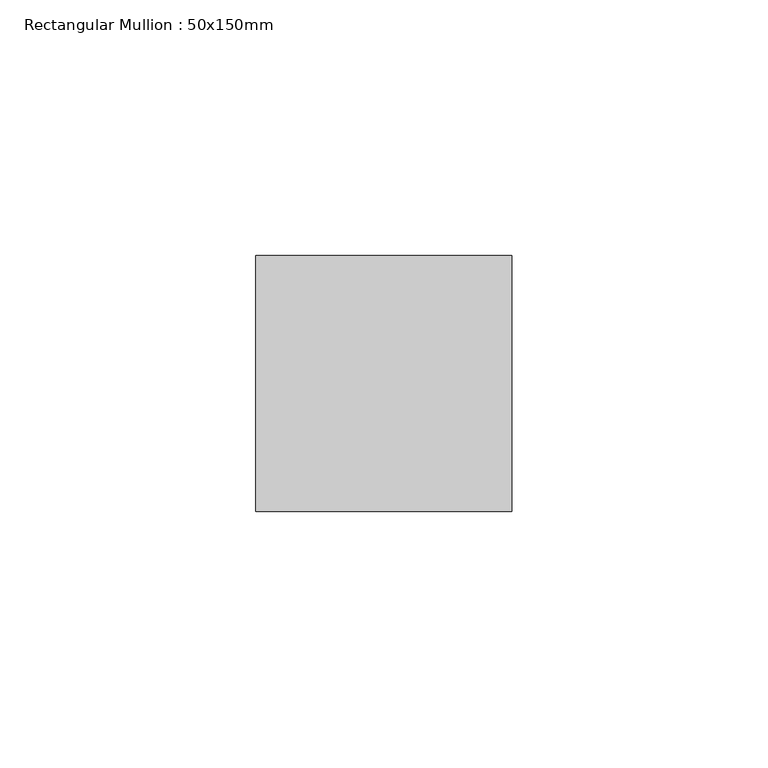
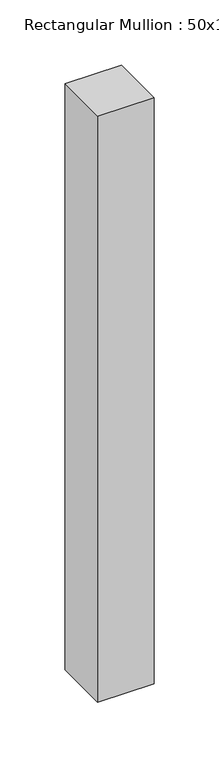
"""IFC4 building model written with IfcOpenShell, lengths in millimetres: member geometry, Rectangular Mullion : 50x150mm."""

import ifcopenshell
import ifcopenshell.guid

model = None  # the IFC model being written
_history = None  # IfcOwnerHistory: only IFC2X3 demands one
_inside = {}  # id of a spatial element -> (the spatial element, [elements in it])
_under = {}  # id of a project, library or spatial element -> (it, [spatial elements below it])
_declared = {}  # id of a project -> (the project, [libraries it declares])
_typed = {}  # id of a type object -> (the type object, [elements of that type])
_made_of = {}  # id of a material, layer set ... -> (it, [elements and type objects made of it])


def new_model(schema):
    """Start an empty IFC model of exactly this schema.

    Asked for "IFC4X3", IfcOpenShell would pick the latest addendum, in which some entities
    have other attributes; the version numbers below select the first issue.
    IFC2X3 requires an IfcOwnerHistory on every rooted entity: one is made here for all.
    """
    global model, _history
    if schema == "IFC4X3":
        model = ifcopenshell.file(schema_version=(4, 3, 0, 0))
    else:
        model = ifcopenshell.file(schema=schema)
    _inside.clear()
    _under.clear()
    _declared.clear()
    _typed.clear()
    _made_of.clear()
    _history = None
    if model.schema == "IFC2X3":
        org = make("IfcOrganization", Name="unknown")
        user = make(
            "IfcPersonAndOrganization",
            ThePerson=make("IfcPerson", FamilyName="unknown"),
            TheOrganization=org,
        )
        app = make(
            "IfcApplication",
            ApplicationDeveloper=org,
            Version="unknown",
            ApplicationFullName="unknown",
            ApplicationIdentifier="unknown",
        )
        _history = make(
            "IfcOwnerHistory",
            OwningUser=user,
            OwningApplication=app,
            ChangeAction="ADDED",
            CreationDate=0,
        )
    return model


def make(cls, **values):
    """One entity of the class cls with the attributes given. An attribute that is None is left unset."""
    return model.create_entity(
        cls, **{name: value for name, value in values.items() if value is not None}
    )


def rooted(cls, **values):
    """An entity with a GlobalId (a new one), such as an element, a storey or a relation."""
    return make(cls, GlobalId=ifcopenshell.guid.new(), OwnerHistory=_history, **values)


def si_unit(unit_type, name, prefix=None):
    """IfcSIUnit, for example si_unit("LENGTHUNIT", "METRE", prefix="MILLI")."""
    return make("IfcSIUnit", UnitType=unit_type, Prefix=prefix, Name=name)


def assignment(units):
    """IfcUnitAssignment: the units of a project."""
    return None if units is None else make("IfcUnitAssignment", Units=units)


def point(xyz):
    """IfcCartesianPoint."""
    return None if xyz is None else make("IfcCartesianPoint", Coordinates=xyz)


def direction(xyz):
    """IfcDirection."""
    return None if xyz is None else make("IfcDirection", DirectionRatios=xyz)


def frame(location, z_axis=None, x_axis=None):
    """IfcAxis2Placement3D, a coordinate frame: its origin and axes. An axis left out is left unset."""
    return make(
        "IfcAxis2Placement3D",
        Location=point(location),
        Axis=direction(z_axis),
        RefDirection=direction(x_axis),
    )


def origin():
    """The frame at (0, 0, 0) with its axes left unset."""
    return frame((0.0, 0.0, 0.0))


def place(relative_to, where):
    """IfcLocalPlacement: puts the frame where relative to a parent placement (None: the world)."""
    return make(
        "IfcLocalPlacement", PlacementRelTo=relative_to, RelativePlacement=where
    )


def context(
    kind, dimensions, precision=None, world=None, true_north=None, identifier=None
):
    """IfcGeometricRepresentationContext, for example the 3D "Model" context."""
    return make(
        "IfcGeometricRepresentationContext",
        ContextIdentifier=identifier,
        ContextType=kind,
        CoordinateSpaceDimension=dimensions,
        Precision=precision,
        WorldCoordinateSystem=world,
        TrueNorth=true_north,
    )


def project(units=None, contexts=None):
    """IfcProject with its units and contexts."""
    return rooted(
        "IfcProject",
        Name="project",
        RepresentationContexts=contexts,
        UnitsInContext=assignment(units),
    )


def spatial(cls, under=None, at=None, **own):
    """A site, building, storey or space (cls), placed at a placement, below another one or the project."""
    s = rooted(cls, ObjectPlacement=at, **own)
    if under is not None:
        _under.setdefault(under.id(), (under, []))[1].append(s)
    return s


def polyline(points):
    """IfcPolyline through the points."""
    return make("IfcPolyline", Points=[point(p) for p in points])


def outline(outer, holes=None, kind="AREA"):
    """IfcArbitraryClosedProfileDef: a profile drawn as a closed curve; with holes, ...WithVoids."""
    if holes is None:
        return make("IfcArbitraryClosedProfileDef", ProfileType=kind, OuterCurve=outer)
    return make(
        "IfcArbitraryProfileDefWithVoids",
        ProfileType=kind,
        OuterCurve=outer,
        InnerCurves=holes,
    )


def extrude(swept, where, along, depth):
    """IfcExtrudedAreaSolid: the profile swept, set in the frame where, extruded along a direction by depth."""
    return make(
        "IfcExtrudedAreaSolid",
        SweptArea=swept,
        Position=where,
        ExtrudedDirection=direction(along),
        Depth=depth,
    )


def shape(context_of_items, identifier, shape_type, items):
    """IfcShapeRepresentation: the items that make up one representation, for example the "Body"."""
    return make(
        "IfcShapeRepresentation",
        ContextOfItems=context_of_items,
        RepresentationIdentifier=identifier,
        RepresentationType=shape_type,
        Items=items,
    )


def source(mapping_origin, context_of_items, identifier, shape_type, items):
    """IfcRepresentationMap: a shape defined once, which mapped items show again and again."""
    return make(
        "IfcRepresentationMap",
        MappingOrigin=mapping_origin,
        MappedRepresentation=shape(context_of_items, identifier, shape_type, items),
    )


def transform(
    local_origin,
    x_axis=None,
    y_axis=None,
    z_axis=None,
    scale=None,
    scale2=None,
    scale3=None,
    uniform=True,
):
    """IfcCartesianTransformationOperator3D, or its non-uniform kind. x_axis, y_axis, z_axis: its Axis1, 2, 3."""
    if uniform:
        return make(
            "IfcCartesianTransformationOperator3D",
            Axis1=direction(x_axis),
            Axis2=direction(y_axis),
            LocalOrigin=point(local_origin),
            Scale=scale,
            Axis3=direction(z_axis),
        )
    return make(
        "IfcCartesianTransformationOperator3DnonUniform",
        Axis1=direction(x_axis),
        Axis2=direction(y_axis),
        LocalOrigin=point(local_origin),
        Scale=scale,
        Axis3=direction(z_axis),
        Scale2=scale2,
        Scale3=scale3,
    )


def mapped(mapping_source, mapping_target):
    """IfcMappedItem: shows the shape of a source again, moved by a transform."""
    return make(
        "IfcMappedItem", MappingSource=mapping_source, MappingTarget=mapping_target
    )


def made_of(thing, what):
    """Note that an element or type object is made of a material, layer set ...; save() writes the relation."""
    if what is not None:
        _made_of.setdefault(what.id(), (what, []))[1].append(thing)
    return thing


def element(
    cls,
    number,
    at=None,
    inside=None,
    cuts=None,
    type_object=None,
    material=None,
    context=None,
    identifier="Body",
    shape_type=None,
    held_by="IfcProductDefinitionShape",
    body=None,
    shapes=None,
    **own,
):
    """One element of the class cls, such as IfcWall. Its Tag is "e" and its number.

    at: its placement. inside: the storey or other place that contains it. cuts: it is an
    opening in that element (IfcRelVoidsElement). A single representation is given by context,
    identifier, shape_type and body (its items); several are given by shapes. held_by: the class
    of the entity that holds the representations. save() writes the other relations.
    """
    e = rooted(cls, Tag="e%d" % number, ObjectPlacement=at, **own)
    if body is not None:
        shapes = [shape(context, identifier, shape_type, body)]
    if shapes is not None:
        e.Representation = make(held_by, Representations=shapes)
    if inside is not None:
        _inside.setdefault(inside.id(), (inside, []))[1].append(e)
    if cuts is not None:
        rooted(
            "IfcRelVoidsElement", RelatingBuildingElement=cuts, RelatedOpeningElement=e
        )
    if type_object is not None:
        _typed.setdefault(type_object.id(), (type_object, []))[1].append(e)
    return made_of(e, material)


def aggregate(whole, parts):
    """IfcRelAggregates: a whole, such as a stair, and the parts it consists of."""
    return rooted("IfcRelAggregates", RelatingObject=whole, RelatedObjects=parts)


def save(model, path):
    """Write the relations noted so far, then the file.

    IfcRelAggregates (storeys below a building ...), IfcRelContainedInSpatialStructure (elements
    in a storey), IfcRelDefinesByType, IfcRelAssociatesMaterial and IfcRelDeclares: one each for
    every whole, place, type object, material and project.
    """
    for whole, parts in _under.values():
        aggregate(whole, parts)
    for where, things in _inside.values():
        rooted(
            "IfcRelContainedInSpatialStructure",
            RelatedElements=things,
            RelatingStructure=where,
        )
    for kind, things in _typed.values():
        rooted("IfcRelDefinesByType", RelatedObjects=things, RelatingType=kind)
    for what, things in _made_of.values():
        rooted("IfcRelAssociatesMaterial", RelatedObjects=things, RelatingMaterial=what)
    for by, libraries in _declared.values():
        rooted("IfcRelDeclares", RelatingContext=by, RelatedDefinitions=libraries)
    model.write(path)


def rectangular_mullion_50x150mm_005697f4(model_context):
    return source(origin(), model_context, "Body", "SweptSolid", [
        extrude(outline(polyline([(25.0, 25.0), (25.0, -25.0), (-25.0, -25.0), (-25.0, 25.0), (25.0, 25.0)])), frame((0.0, 0.0, -549.0), z_axis=(0.0, 0.0, 1.0), x_axis=(1.0, 0.0, 0.0)), (0.0, 0.0, 1.0), 549.0),
    ])


if __name__ == "__main__":
    model = new_model("IFC4")
    model_context = context("Model", 3, world=origin())
    ifc_project = project(units=[si_unit("LENGTHUNIT", "METRE", prefix="MILLI")], contexts=[model_context])
    site = spatial("IfcSite", under=ifc_project)
    building = spatial("IfcBuilding", under=site)
    placement = place(None, origin())
    rectangular_mullion_50x150mm_shape = rectangular_mullion_50x150mm_005697f4(model_context)
    element("IfcMember", 1, ObjectType="Rectangular Mullion : 50x150mm", at=placement, inside=building, context=model_context, shape_type="MappedRepresentation", body=[
        mapped(rectangular_mullion_50x150mm_shape, transform((0.0, 0.0, 0.0), x_axis=(1.0, 0.0, 0.0), y_axis=(0.0, 1.0, 0.0), z_axis=(0.0, 0.0, 1.0))),
    ])
    save(model, "model.ifc")
